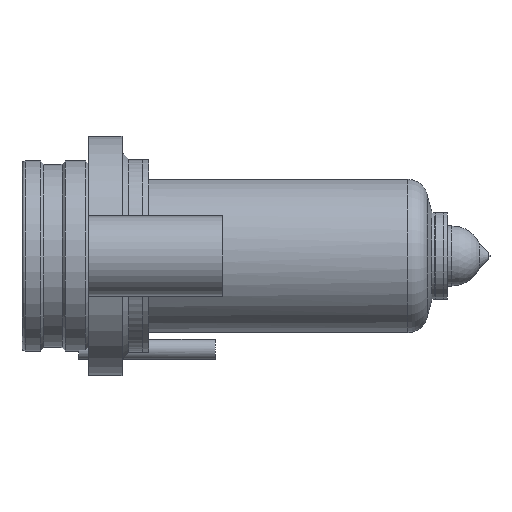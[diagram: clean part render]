
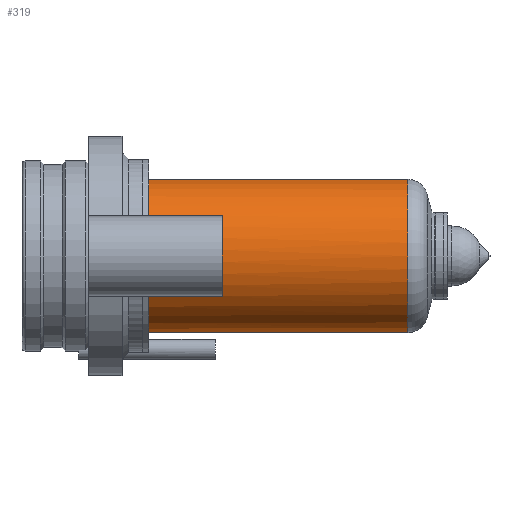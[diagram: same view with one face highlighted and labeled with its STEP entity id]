
A CAD part, front view. The second image highlights one B-rep face of the part: STEP entity #319.
In plain terms, the highlighted cylindrical face has radius 11.5 mm (diameter 23 mm), a full revolution.
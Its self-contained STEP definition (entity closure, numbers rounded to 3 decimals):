
#319 = ADVANCED_FACE( '', ( #676, #677 ), #678, .T. );
#676 = FACE_OUTER_BOUND( '', #1047, .T. );
#677 = FACE_OUTER_BOUND( '', #1048, .T. );
#678 = CYLINDRICAL_SURFACE( '', #1049, 11.5 );
#1047 = EDGE_LOOP( '', ( #1597 ) );
#1048 = EDGE_LOOP( '', ( #1598, #1599, #1600, #1601 ) );
#1049 = AXIS2_PLACEMENT_3D( '', #1602, #1603, #1604 );
#1597 = ORIENTED_EDGE( '', *, *, #1761, .T. );
#1598 = ORIENTED_EDGE( '', *, *, #1737, .T. );
#1599 = ORIENTED_EDGE( '', *, *, #1693, .F. );
#1600 = ORIENTED_EDGE( '', *, *, #1828, .F. );
#1601 = ORIENTED_EDGE( '', *, *, #1704, .T. );
#1602 = CARTESIAN_POINT( '', ( 0., 0., 0. ) );
#1603 = DIRECTION( '', ( 1., 0., 0. ) );
#1604 = DIRECTION( '', ( 0., 0., 1. ) );
#1693 = EDGE_CURVE( '', #1921, #1923, #1924, .T. );
#1704 = EDGE_CURVE( '', #1939, #1940, #1941, .T. );
#1737 = EDGE_CURVE( '', #1940, #1923, #1992, .T. );
#1761 = EDGE_CURVE( '', #2028, #2028, #2029, .T. );
#1828 = EDGE_CURVE( '', #1939, #1921, #2118, .T. );
#1921 = VERTEX_POINT( '', #2213 );
#1923 = VERTEX_POINT( '', #2216 );
#1924 = CIRCLE( '', #2217, 11.5 );
#1939 = VERTEX_POINT( '', #2233 );
#1940 = VERTEX_POINT( '', #2234 );
#1941 = CIRCLE( '', #2235, 11.5 );
#1992 = LINE( '', #2289, #2290 );
#2028 = VERTEX_POINT( '', #2356 );
#2029 = CIRCLE( '', #2357, 11.5 );
#2118 = LINE( '', #2453, #2454 );
#2213 = CARTESIAN_POINT( '', ( 19., -9.811, 6. ) );
#2216 = CARTESIAN_POINT( '', ( 19., -9.811, -6. ) );
#2217 = AXIS2_PLACEMENT_3D( '', #2561, #2562, #2563 );
#2233 = CARTESIAN_POINT( '', ( 30., -9.811, 6. ) );
#2234 = CARTESIAN_POINT( '', ( 30., -9.811, -6. ) );
#2235 = AXIS2_PLACEMENT_3D( '', #2577, #2578, #2579 );
#2289 = CARTESIAN_POINT( '', ( 30., -9.811, -6. ) );
#2290 = VECTOR( '', #2631, 1000. );
#2356 = CARTESIAN_POINT( '', ( 57.855, 0., 11.5 ) );
#2357 = AXIS2_PLACEMENT_3D( '', #2658, #2659, #2660 );
#2453 = CARTESIAN_POINT( '', ( 30., -9.811, 6. ) );
#2454 = VECTOR( '', #2734, 1000. );
#2561 = CARTESIAN_POINT( '', ( 19., 0., 0. ) );
#2562 = DIRECTION( '', ( -1., 0., 0. ) );
#2563 = DIRECTION( '', ( 0., 0., 1. ) );
#2577 = CARTESIAN_POINT( '', ( 30., 0., 0. ) );
#2578 = DIRECTION( '', ( 1., 0., 0. ) );
#2579 = DIRECTION( '', ( 0., 0., -1. ) );
#2631 = DIRECTION( '', ( -1., 0., 0. ) );
#2658 = CARTESIAN_POINT( '', ( 57.855, 0., 0. ) );
#2659 = DIRECTION( '', ( -1., 0., 0. ) );
#2660 = DIRECTION( '', ( 0., 0., 1. ) );
#2734 = DIRECTION( '', ( -1., 0., 0. ) );
